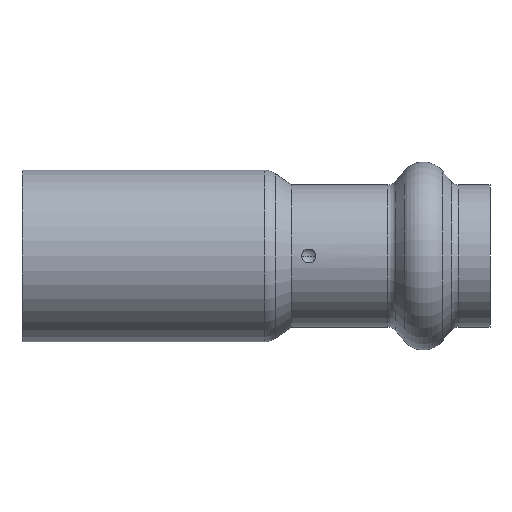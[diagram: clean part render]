
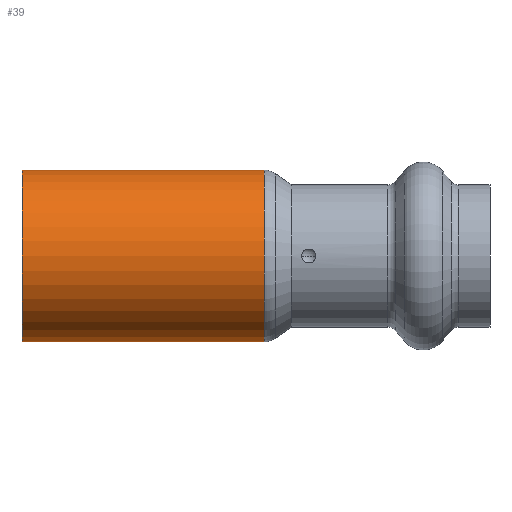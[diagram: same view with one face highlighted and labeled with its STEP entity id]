
A CAD part, front view. The second image highlights one B-rep face of the part: STEP entity #39.
In plain terms, the highlighted cylindrical face has radius 9 mm (diameter 18 mm), a partial arc.
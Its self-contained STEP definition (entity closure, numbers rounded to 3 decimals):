
#39 = ADVANCED_FACE ( 'NONE', ( #1196 ), #589, .T. ) ;
#68 = CARTESIAN_POINT ( 'NONE',  ( 0., 0., -9. ) ) ;
#73 = DIRECTION ( 'NONE',  ( 0., 0., 1. ) ) ;
#201 = AXIS2_PLACEMENT_3D ( 'NONE', #240, #1044, #354 ) ;
#235 = VECTOR ( 'NONE', #797, 1000. ) ;
#240 = CARTESIAN_POINT ( 'NONE',  ( 25.369, 0., 0. ) ) ;
#343 = AXIS2_PLACEMENT_3D ( 'NONE', #997, #697, #801 ) ;
#354 = DIRECTION ( 'NONE',  ( 0., 0., -1. ) ) ;
#408 = VERTEX_POINT ( 'NONE', #68 ) ;
#413 = EDGE_CURVE ( 'NONE', #408, #1122, #1461, .T. ) ;
#486 = ORIENTED_EDGE ( 'NONE', *, *, #806, .T. ) ;
#539 = CARTESIAN_POINT ( 'NONE',  ( 25.369, 0., 9. ) ) ;
#574 = LINE ( 'NONE', #1478, #235 ) ;
#589 = CYLINDRICAL_SURFACE ( 'NONE', #343, 9. ) ;
#648 = EDGE_CURVE ( 'NONE', #828, #408, #991, .T. ) ;
#678 = VECTOR ( 'NONE', #1146, 1000. ) ;
#697 = DIRECTION ( 'NONE',  ( -1., 0., 0. ) ) ;
#756 = DIRECTION ( 'NONE',  ( -1., 0., 0. ) ) ;
#795 = CIRCLE ( 'NONE', #201, 9. ) ;
#797 = DIRECTION ( 'NONE',  ( -1., 0., 0. ) ) ;
#801 = DIRECTION ( 'NONE',  ( 0., 0., 1. ) ) ;
#806 = EDGE_CURVE ( 'NONE', #828, #1262, #795, .T. ) ;
#809 = ORIENTED_EDGE ( 'NONE', *, *, #648, .F. ) ;
#828 = VERTEX_POINT ( 'NONE', #1376 ) ;
#984 = CARTESIAN_POINT ( 'NONE',  ( 0., 0., 9. ) ) ;
#991 = LINE ( 'NONE', #1368, #678 ) ;
#997 = CARTESIAN_POINT ( 'NONE',  ( -4.079, 0., 0. ) ) ;
#1000 = EDGE_LOOP ( 'NONE', ( #809, #486, #1273, #1462 ) ) ;
#1040 = AXIS2_PLACEMENT_3D ( 'NONE', #1441, #756, #73 ) ;
#1044 = DIRECTION ( 'NONE',  ( -1., 0., 0. ) ) ;
#1122 = VERTEX_POINT ( 'NONE', #984 ) ;
#1146 = DIRECTION ( 'NONE',  ( -1., 0., 0. ) ) ;
#1196 = FACE_OUTER_BOUND ( 'NONE', #1000, .T. ) ;
#1262 = VERTEX_POINT ( 'NONE', #539 ) ;
#1273 = ORIENTED_EDGE ( 'NONE', *, *, #1405, .T. ) ;
#1368 = CARTESIAN_POINT ( 'NONE',  ( -4.079, 0., -9. ) ) ;
#1376 = CARTESIAN_POINT ( 'NONE',  ( 25.369, 0., -9. ) ) ;
#1405 = EDGE_CURVE ( 'NONE', #1262, #1122, #574, .T. ) ;
#1441 = CARTESIAN_POINT ( 'NONE',  ( 0., 0., 0. ) ) ;
#1461 = CIRCLE ( 'NONE', #1040, 9. ) ;
#1462 = ORIENTED_EDGE ( 'NONE', *, *, #413, .F. ) ;
#1478 = CARTESIAN_POINT ( 'NONE',  ( -4.079, 0., 9. ) ) ;
